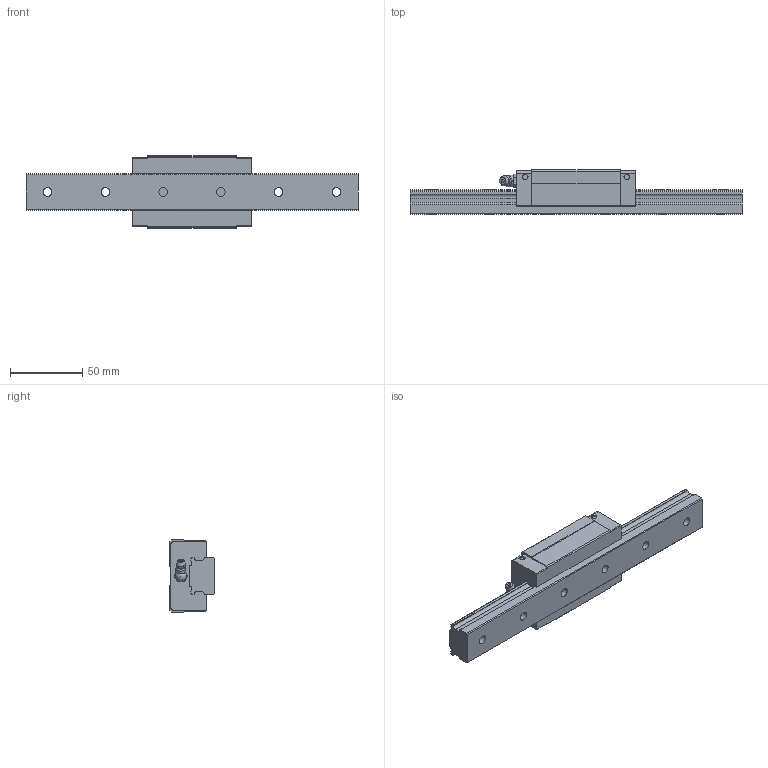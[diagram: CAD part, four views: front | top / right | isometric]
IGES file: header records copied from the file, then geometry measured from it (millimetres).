
Start section: Data from Parasolid IGES Translator 26.0.171, Copyright(c) 2006 Siemens PLM Software. All Rights Reserved.
Global section: file name: SVR25R1SS-230L_G15_0_B-M6F_73-6_0_0_0_1.igs; native system: By Siemens PLM Incorporated; preprocessor: XPlus GENERIC/IGES 26.0.171; author: Noname; organization: Noname; date: 20240517.070602; units: millimetre
Bounding box: 230 x 31 x 50 mm (x, y, z)
Surface area: 40741.9 mm2 (no closed solid volume)
Topology: 0 solids, 0 shells, 179 faces, 938 edges, 888 vertices
Faces by surface type: extrusion 94, revolution 85
